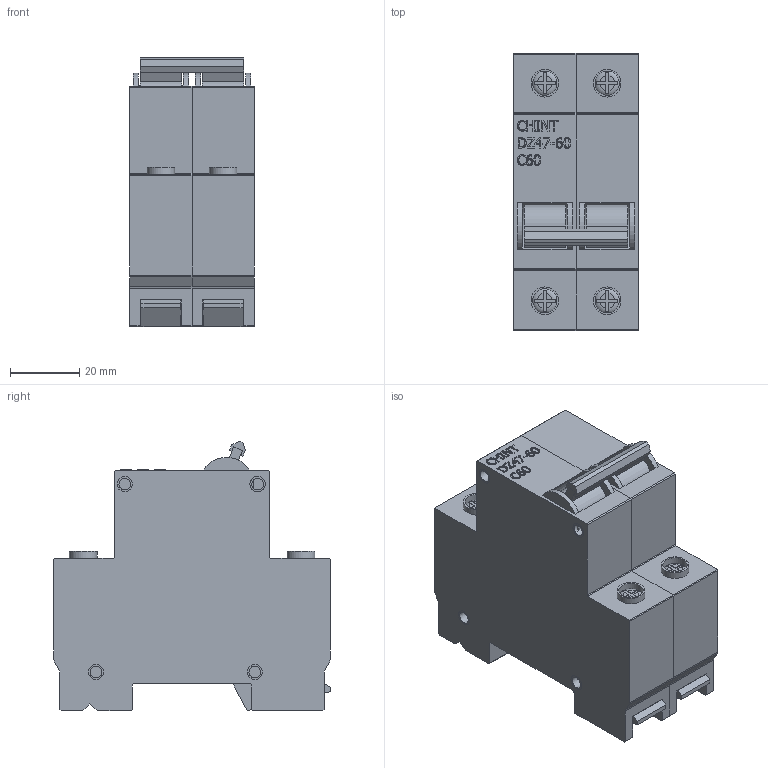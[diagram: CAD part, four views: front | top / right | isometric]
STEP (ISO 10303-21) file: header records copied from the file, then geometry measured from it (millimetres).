
FILE_DESCRIPTION(/* description */ (''),/* implementation_level */ '2;1');
FILE_NAME(/* name */ 'D:\CHINT\DZ47-60\Авт. выкл.DZ47-60 2P 16A 4.5kA х-ка B (CHINT).stp',/* time_stamp */ '2017-09-03T16:57:16+04:00',/* author */ ('RSagdiev'),/* organization */ (''),/* preprocessor_version */ 'ST-DEVELOPER v16.5',/* originating_system */ 'Autodesk Inventor 2017',/* authorisation */ '');
FILE_SCHEMA (('AUTOMOTIVE_DESIGN { 1 0 10303 214 3 1 1 }'));
Length unit declared in the file: millimetre
Products named in the file (1): Авт. выкл.DZ47-60 2P 16A 4.5kA \X2\0445
\X0\-ка B (CHINT)
Bounding box: 36 x 80 x 77.79 mm (x, y, z)
Volume: 154967.9 mm3; surface area: 37221.9 mm2
Topology: 27 solids, 27 shells, 564 faces, 1393 edges, 922 vertices
Faces by surface type: plane 388, bspline 102, cylinder 70, torus 4
Full cylindrical faces by diameter (mm): 3.403 x24, 4.403 x24, 7 x4, 8 x4
Entity records: 17187 total; most frequent: CARTESIAN_POINT 4446, ORIENTED_EDGE 2646, DIRECTION 2273, EDGE_CURVE 1323, VERTEX_POINT 914, LINE 891, VECTOR 891, EDGE_LOOP 705
